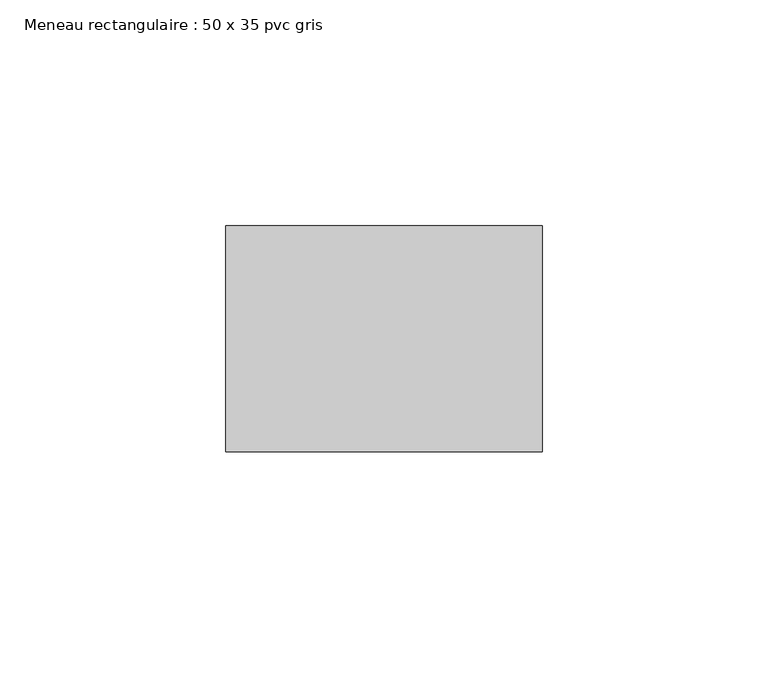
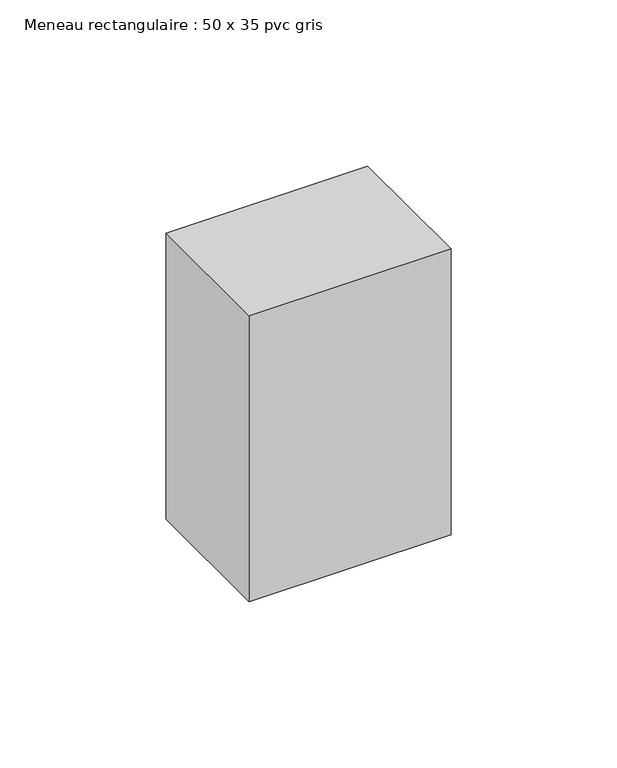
"""IFC4 building model written with IfcOpenShell, lengths in millimetres: member geometry, Meneau rectangulaire : 50 x 35 pvc gris."""

import ifcopenshell
import ifcopenshell.guid

model = None  # the IFC model being written
_history = None  # IfcOwnerHistory: only IFC2X3 demands one
_inside = {}  # id of a spatial element -> (the spatial element, [elements in it])
_under = {}  # id of a project, library or spatial element -> (it, [spatial elements below it])
_declared = {}  # id of a project -> (the project, [libraries it declares])
_typed = {}  # id of a type object -> (the type object, [elements of that type])
_made_of = {}  # id of a material, layer set ... -> (it, [elements and type objects made of it])


def new_model(schema):
    """Start an empty IFC model of exactly this schema.

    Asked for "IFC4X3", IfcOpenShell would pick the latest addendum, in which some entities
    have other attributes; the version numbers below select the first issue.
    IFC2X3 requires an IfcOwnerHistory on every rooted entity: one is made here for all.
    """
    global model, _history
    if schema == "IFC4X3":
        model = ifcopenshell.file(schema_version=(4, 3, 0, 0))
    else:
        model = ifcopenshell.file(schema=schema)
    _inside.clear()
    _under.clear()
    _declared.clear()
    _typed.clear()
    _made_of.clear()
    _history = None
    if model.schema == "IFC2X3":
        org = make("IfcOrganization", Name="unknown")
        user = make(
            "IfcPersonAndOrganization",
            ThePerson=make("IfcPerson", FamilyName="unknown"),
            TheOrganization=org,
        )
        app = make(
            "IfcApplication",
            ApplicationDeveloper=org,
            Version="unknown",
            ApplicationFullName="unknown",
            ApplicationIdentifier="unknown",
        )
        _history = make(
            "IfcOwnerHistory",
            OwningUser=user,
            OwningApplication=app,
            ChangeAction="ADDED",
            CreationDate=0,
        )
    return model


def make(cls, **values):
    """One entity of the class cls with the attributes given. An attribute that is None is left unset."""
    return model.create_entity(
        cls, **{name: value for name, value in values.items() if value is not None}
    )


def rooted(cls, **values):
    """An entity with a GlobalId (a new one), such as an element, a storey or a relation."""
    return make(cls, GlobalId=ifcopenshell.guid.new(), OwnerHistory=_history, **values)


def si_unit(unit_type, name, prefix=None):
    """IfcSIUnit, for example si_unit("LENGTHUNIT", "METRE", prefix="MILLI")."""
    return make("IfcSIUnit", UnitType=unit_type, Prefix=prefix, Name=name)


def assignment(units):
    """IfcUnitAssignment: the units of a project."""
    return None if units is None else make("IfcUnitAssignment", Units=units)


def point(xyz):
    """IfcCartesianPoint."""
    return None if xyz is None else make("IfcCartesianPoint", Coordinates=xyz)


def direction(xyz):
    """IfcDirection."""
    return None if xyz is None else make("IfcDirection", DirectionRatios=xyz)


def frame(location, z_axis=None, x_axis=None):
    """IfcAxis2Placement3D, a coordinate frame: its origin and axes. An axis left out is left unset."""
    return make(
        "IfcAxis2Placement3D",
        Location=point(location),
        Axis=direction(z_axis),
        RefDirection=direction(x_axis),
    )


def origin():
    """The frame at (0, 0, 0) with its axes left unset."""
    return frame((0.0, 0.0, 0.0))


def place(relative_to, where):
    """IfcLocalPlacement: puts the frame where relative to a parent placement (None: the world)."""
    return make(
        "IfcLocalPlacement", PlacementRelTo=relative_to, RelativePlacement=where
    )


def context(
    kind, dimensions, precision=None, world=None, true_north=None, identifier=None
):
    """IfcGeometricRepresentationContext, for example the 3D "Model" context."""
    return make(
        "IfcGeometricRepresentationContext",
        ContextIdentifier=identifier,
        ContextType=kind,
        CoordinateSpaceDimension=dimensions,
        Precision=precision,
        WorldCoordinateSystem=world,
        TrueNorth=true_north,
    )


def project(units=None, contexts=None):
    """IfcProject with its units and contexts."""
    return rooted(
        "IfcProject",
        Name="project",
        RepresentationContexts=contexts,
        UnitsInContext=assignment(units),
    )


def spatial(cls, under=None, at=None, **own):
    """A site, building, storey or space (cls), placed at a placement, below another one or the project."""
    s = rooted(cls, ObjectPlacement=at, **own)
    if under is not None:
        _under.setdefault(under.id(), (under, []))[1].append(s)
    return s


def polyline(points):
    """IfcPolyline through the points."""
    return make("IfcPolyline", Points=[point(p) for p in points])


def outline(outer, holes=None, kind="AREA"):
    """IfcArbitraryClosedProfileDef: a profile drawn as a closed curve; with holes, ...WithVoids."""
    if holes is None:
        return make("IfcArbitraryClosedProfileDef", ProfileType=kind, OuterCurve=outer)
    return make(
        "IfcArbitraryProfileDefWithVoids",
        ProfileType=kind,
        OuterCurve=outer,
        InnerCurves=holes,
    )


def extrude(swept, where, along, depth):
    """IfcExtrudedAreaSolid: the profile swept, set in the frame where, extruded along a direction by depth."""
    return make(
        "IfcExtrudedAreaSolid",
        SweptArea=swept,
        Position=where,
        ExtrudedDirection=direction(along),
        Depth=depth,
    )


def shape(context_of_items, identifier, shape_type, items):
    """IfcShapeRepresentation: the items that make up one representation, for example the "Body"."""
    return make(
        "IfcShapeRepresentation",
        ContextOfItems=context_of_items,
        RepresentationIdentifier=identifier,
        RepresentationType=shape_type,
        Items=items,
    )


def source(mapping_origin, context_of_items, identifier, shape_type, items):
    """IfcRepresentationMap: a shape defined once, which mapped items show again and again."""
    return make(
        "IfcRepresentationMap",
        MappingOrigin=mapping_origin,
        MappedRepresentation=shape(context_of_items, identifier, shape_type, items),
    )


def transform(
    local_origin,
    x_axis=None,
    y_axis=None,
    z_axis=None,
    scale=None,
    scale2=None,
    scale3=None,
    uniform=True,
):
    """IfcCartesianTransformationOperator3D, or its non-uniform kind. x_axis, y_axis, z_axis: its Axis1, 2, 3."""
    if uniform:
        return make(
            "IfcCartesianTransformationOperator3D",
            Axis1=direction(x_axis),
            Axis2=direction(y_axis),
            LocalOrigin=point(local_origin),
            Scale=scale,
            Axis3=direction(z_axis),
        )
    return make(
        "IfcCartesianTransformationOperator3DnonUniform",
        Axis1=direction(x_axis),
        Axis2=direction(y_axis),
        LocalOrigin=point(local_origin),
        Scale=scale,
        Axis3=direction(z_axis),
        Scale2=scale2,
        Scale3=scale3,
    )


def mapped(mapping_source, mapping_target):
    """IfcMappedItem: shows the shape of a source again, moved by a transform."""
    return make(
        "IfcMappedItem", MappingSource=mapping_source, MappingTarget=mapping_target
    )


def made_of(thing, what):
    """Note that an element or type object is made of a material, layer set ...; save() writes the relation."""
    if what is not None:
        _made_of.setdefault(what.id(), (what, []))[1].append(thing)
    return thing


def element(
    cls,
    number,
    at=None,
    inside=None,
    cuts=None,
    type_object=None,
    material=None,
    context=None,
    identifier="Body",
    shape_type=None,
    held_by="IfcProductDefinitionShape",
    body=None,
    shapes=None,
    **own,
):
    """One element of the class cls, such as IfcWall. Its Tag is "e" and its number.

    at: its placement. inside: the storey or other place that contains it. cuts: it is an
    opening in that element (IfcRelVoidsElement). A single representation is given by context,
    identifier, shape_type and body (its items); several are given by shapes. held_by: the class
    of the entity that holds the representations. save() writes the other relations.
    """
    e = rooted(cls, Tag="e%d" % number, ObjectPlacement=at, **own)
    if body is not None:
        shapes = [shape(context, identifier, shape_type, body)]
    if shapes is not None:
        e.Representation = make(held_by, Representations=shapes)
    if inside is not None:
        _inside.setdefault(inside.id(), (inside, []))[1].append(e)
    if cuts is not None:
        rooted(
            "IfcRelVoidsElement", RelatingBuildingElement=cuts, RelatedOpeningElement=e
        )
    if type_object is not None:
        _typed.setdefault(type_object.id(), (type_object, []))[1].append(e)
    return made_of(e, material)


def aggregate(whole, parts):
    """IfcRelAggregates: a whole, such as a stair, and the parts it consists of."""
    return rooted("IfcRelAggregates", RelatingObject=whole, RelatedObjects=parts)


def save(model, path):
    """Write the relations noted so far, then the file.

    IfcRelAggregates (storeys below a building ...), IfcRelContainedInSpatialStructure (elements
    in a storey), IfcRelDefinesByType, IfcRelAssociatesMaterial and IfcRelDeclares: one each for
    every whole, place, type object, material and project.
    """
    for whole, parts in _under.values():
        aggregate(whole, parts)
    for where, things in _inside.values():
        rooted(
            "IfcRelContainedInSpatialStructure",
            RelatedElements=things,
            RelatingStructure=where,
        )
    for kind, things in _typed.values():
        rooted("IfcRelDefinesByType", RelatedObjects=things, RelatingType=kind)
    for what, things in _made_of.values():
        rooted("IfcRelAssociatesMaterial", RelatedObjects=things, RelatingMaterial=what)
    for by, libraries in _declared.values():
        rooted("IfcRelDeclares", RelatingContext=by, RelatedDefinitions=libraries)
    model.write(path)


def meneau_rectangulaire_50_x_35_pvc_gris_cad8774a(model_context):
    return source(origin(), model_context, "Body", "SweptSolid", [
        extrude(outline(polyline([(0.0, 0.0), (0.0, -50.0), (-70.0, -50.0), (-70.0, 0.0), (0.0, 0.0)])), frame((0.0, 0.0, -105.0), z_axis=(0.0, 0.0, 1.0), x_axis=(1.0, 0.0, 0.0)), (0.0, 0.0, 1.0), 105.0),
    ])


if __name__ == "__main__":
    model = new_model("IFC4")
    model_context = context("Model", 3, world=origin())
    ifc_project = project(units=[si_unit("LENGTHUNIT", "METRE", prefix="MILLI")], contexts=[model_context])
    site = spatial("IfcSite", under=ifc_project)
    building = spatial("IfcBuilding", under=site)
    placement = place(None, origin())
    meneau_rectangulaire_50_x_35_pvc_gris_shape = meneau_rectangulaire_50_x_35_pvc_gris_cad8774a(model_context)
    element("IfcMember", 1, ObjectType="Meneau rectangulaire : 50 x 35 pvc gris", at=placement, inside=building, context=model_context, shape_type="MappedRepresentation", body=[
        mapped(meneau_rectangulaire_50_x_35_pvc_gris_shape, transform((0.0, 0.0, 0.0), x_axis=(1.0, 0.0, 0.0), y_axis=(0.0, 1.0, 0.0), z_axis=(0.0, 0.0, 1.0))),
    ])
    save(model, "model.ifc")
